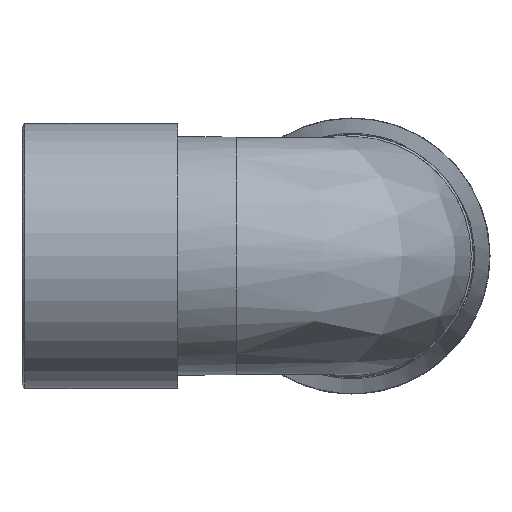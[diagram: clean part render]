
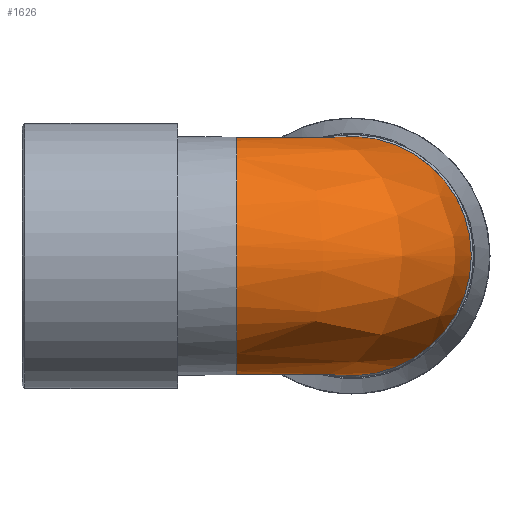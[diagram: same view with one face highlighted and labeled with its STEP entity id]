
A CAD part, left-side view. The second image highlights one B-rep face of the part: STEP entity #1626.
In plain terms, the highlighted free-form (B-spline) face has degree [2, 2] with [9, 3] control points.
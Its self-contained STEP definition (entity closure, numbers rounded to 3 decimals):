
#175=(
BOUNDED_SURFACE()
B_SPLINE_SURFACE(2,2,((#2556,#2557,#2558),(#2559,#2560,#2561),(#2562,#2563,
#2564),(#2565,#2566,#2567),(#2568,#2569,#2570),(#2571,#2572,#2573),(#2574,
#2575,#2576),(#2577,#2578,#2579),(#2580,#2581,#2582)),.UNSPECIFIED.,.F.,
 .F.,.F.)
B_SPLINE_SURFACE_WITH_KNOTS((3,2,2,2,3),(3,3),(-2.886,-1.443,
0.,1.443,2.886),(-3.142,-1.571),
 .UNSPECIFIED.)
GEOMETRIC_REPRESENTATION_ITEM()
RATIONAL_B_SPLINE_SURFACE(((1.,0.707,1.),(0.751,
0.531,0.751),(1.,0.707,1.),(0.751,
0.531,0.751),(1.,0.707,1.),(0.751,
0.531,0.751),(1.,0.707,1.),(0.751,
0.531,0.751),(1.,0.707,1.)))
REPRESENTATION_ITEM('')
SURFACE()
);
#384=FACE_OUTER_BOUND('',#501,.T.);
#501=EDGE_LOOP('',(#1177,#1178));
#647=CIRCLE('',#1774,17.72);
#648=CIRCLE('',#1776,17.72);
#751=VERTEX_POINT('',#2543);
#752=VERTEX_POINT('',#2544);
#916=EDGE_CURVE('',#751,#752,#647,.T.);
#917=EDGE_CURVE('',#751,#752,#648,.T.);
#1177=ORIENTED_EDGE('',*,*,#917,.T.);
#1178=ORIENTED_EDGE('',*,*,#916,.F.);
#1626=ADVANCED_FACE('',(#384),#175,.F.);
#1774=AXIS2_PLACEMENT_3D('',#2546,#2029,#2030);
#1776=AXIS2_PLACEMENT_3D('',#2548,#2033,#2034);
#2029=DIRECTION('center_axis',(1.,0.,0.));
#2030=DIRECTION('ref_axis',(0.,-1.,0.));
#2033=DIRECTION('center_axis',(0.,-1.,0.));
#2034=DIRECTION('ref_axis',(-1.,0.,0.));
#2543=CARTESIAN_POINT('',(17.144,17.144,4.482));
#2544=CARTESIAN_POINT('',(17.144,17.144,-4.482));
#2546=CARTESIAN_POINT('Origin',(17.144,0.,0.));
#2548=CARTESIAN_POINT('Origin',(0.,17.144,0.));
#2556=CARTESIAN_POINT('Ctrl Pts',(17.144,17.144,-4.482));
#2557=CARTESIAN_POINT('Ctrl Pts',(17.144,17.144,-4.482));
#2558=CARTESIAN_POINT('Ctrl Pts',(17.144,17.144,-4.482));
#2559=CARTESIAN_POINT('Ctrl Pts',(13.201,17.144,-19.563));
#2560=CARTESIAN_POINT('Ctrl Pts',(13.201,13.201,-19.563));
#2561=CARTESIAN_POINT('Ctrl Pts',(17.144,13.201,-19.563));
#2562=CARTESIAN_POINT('Ctrl Pts',(-2.26,17.144,-17.576));
#2563=CARTESIAN_POINT('Ctrl Pts',(-2.26,-2.26,-17.576));
#2564=CARTESIAN_POINT('Ctrl Pts',(17.144,-2.26,-17.576));
#2565=CARTESIAN_POINT('Ctrl Pts',(-17.72,17.144,-15.588));
#2566=CARTESIAN_POINT('Ctrl Pts',(-17.72,-17.72,-15.588));
#2567=CARTESIAN_POINT('Ctrl Pts',(17.144,-17.72,-15.588));
#2568=CARTESIAN_POINT('Ctrl Pts',(-17.72,17.144,0.));
#2569=CARTESIAN_POINT('Ctrl Pts',(-17.72,-17.72,0.));
#2570=CARTESIAN_POINT('Ctrl Pts',(17.144,-17.72,0.));
#2571=CARTESIAN_POINT('Ctrl Pts',(-17.72,17.144,15.588));
#2572=CARTESIAN_POINT('Ctrl Pts',(-17.72,-17.72,15.588));
#2573=CARTESIAN_POINT('Ctrl Pts',(17.144,-17.72,15.588));
#2574=CARTESIAN_POINT('Ctrl Pts',(-2.26,17.144,17.576));
#2575=CARTESIAN_POINT('Ctrl Pts',(-2.26,-2.26,17.576));
#2576=CARTESIAN_POINT('Ctrl Pts',(17.144,-2.26,17.576));
#2577=CARTESIAN_POINT('Ctrl Pts',(13.201,17.144,19.563));
#2578=CARTESIAN_POINT('Ctrl Pts',(13.201,13.201,19.563));
#2579=CARTESIAN_POINT('Ctrl Pts',(17.144,13.201,19.563));
#2580=CARTESIAN_POINT('Ctrl Pts',(17.144,17.144,4.482));
#2581=CARTESIAN_POINT('Ctrl Pts',(17.144,17.144,4.482));
#2582=CARTESIAN_POINT('Ctrl Pts',(17.144,17.144,4.482));
